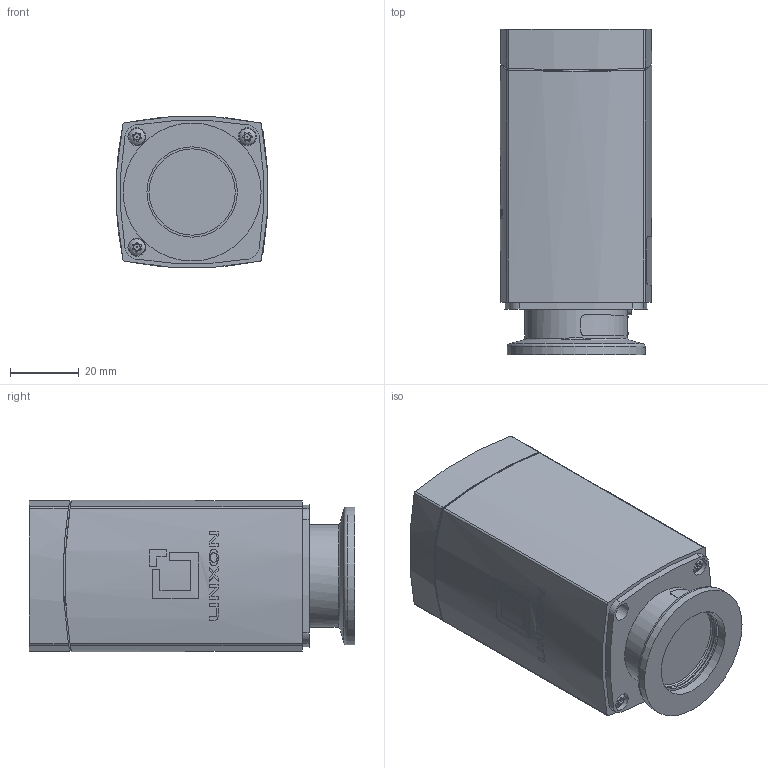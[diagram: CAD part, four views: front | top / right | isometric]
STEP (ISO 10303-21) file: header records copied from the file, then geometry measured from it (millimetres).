
FILE_DESCRIPTION(/* description */ ('','CAx-IF Rec.Pracs.---Representation and Presentation of Product Manufacturing Information (PMI)---4.0---2014-10-13'),/* implementation_level */ '2;1');
FILE_NAME(/* name */ 'MxG 50x Linxon.stp',/* time_stamp */ '2025-01-15T10:01:37+01:00',/* author */ ('quen001'),/* organization */ (''),/* preprocessor_version */ 'ST-DEVELOPER v19.2',/* originating_system */ 'Autodesk Inventor 2023',/* authorisation */ '');
FILE_SCHEMA (('AP242_MANAGED_MODEL_BASED_3D_ENGINEERING_MIM_LF { 1 0 10303 442 1 1 4 }'));
Length unit declared in the file: millimetre
Products named in the file (1): Bauteil91
Bounding box: 43.96 x 94.36 x 44 mm (x, y, z)
Volume: 153228.9 mm3; surface area: 21523.7 mm2
Topology: 3 solids, 3 shells, 777 faces, 2061 edges, 1359 vertices
Faces by surface type: plane 441, bspline 179, cylinder 136, cone 11, torus 6, sphere 4
Full cylindrical faces by diameter (mm): 1.3 x1, 2.6 x1, 3.4 x2, 4.2 x1, 5 x2, 5.2 x4, 25 x1, 25.6 x1, 26.2 x1, 29.8 x1, 40 x1
Entity records: 28432 total; most frequent: CARTESIAN_POINT 9325, ORIENTED_EDGE 4120, DIRECTION 3118, EDGE_CURVE 2060, VERTEX_POINT 1359, LINE 1244, VECTOR 1244, AXIS2_PLACEMENT_3D 937
